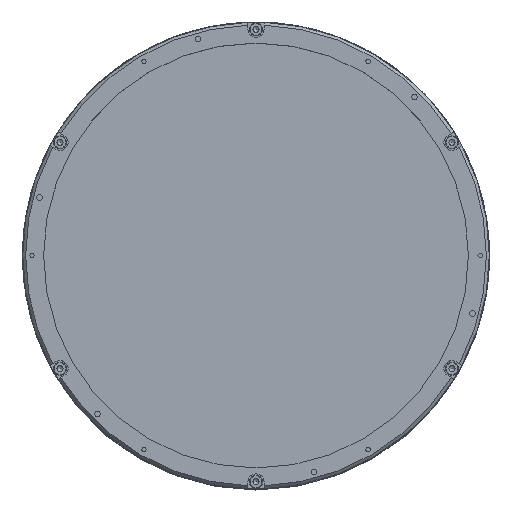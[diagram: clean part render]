
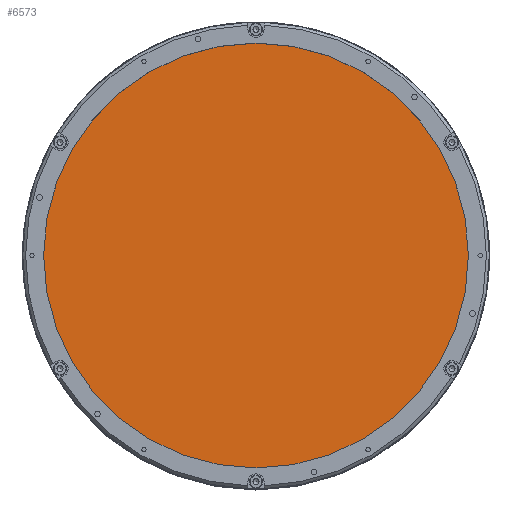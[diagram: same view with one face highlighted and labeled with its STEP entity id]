
A CAD part, top view. The second image highlights one B-rep face of the part: STEP entity #6573.
In plain terms, the highlighted planar face has unit normal (0, 0, 1).
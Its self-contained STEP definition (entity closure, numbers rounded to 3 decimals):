
#1283 = DIRECTION ( 'NONE',  ( 0., 0., 1. ) ) ;
#3029 = DIRECTION ( 'NONE',  ( -1., 0., 0. ) ) ;
#4483 = EDGE_CURVE ( 'NONE', #7227, #7227, #15347, .T. ) ;
#6400 = FACE_OUTER_BOUND ( 'NONE', #9774, .T. ) ;
#6573 = ADVANCED_FACE ( 'NONE', ( #6400 ), #20860, .F. ) ;
#7227 = VERTEX_POINT ( 'NONE', #12076 ) ;
#8257 = CARTESIAN_POINT ( 'NONE',  ( 0., 0., 159.7 ) ) ;
#9774 = EDGE_LOOP ( 'NONE', ( #17893 ) ) ;
#11853 = CARTESIAN_POINT ( 'NONE',  ( 0., 0., 159.7 ) ) ;
#11930 = AXIS2_PLACEMENT_3D ( 'NONE', #8257, #13719, #3029 ) ;
#12076 = CARTESIAN_POINT ( 'NONE',  ( 72.75, 0., 159.7 ) ) ;
#13673 = DIRECTION ( 'NONE',  ( 1., 0., 0. ) ) ;
#13719 = DIRECTION ( 'NONE',  ( 0., 0., -1. ) ) ;
#15347 = CIRCLE ( 'NONE', #17193, 72.75 ) ;
#17193 = AXIS2_PLACEMENT_3D ( 'NONE', #11853, #1283, #13673 ) ;
#17893 = ORIENTED_EDGE ( 'NONE', *, *, #4483, .T. ) ;
#20860 = PLANE ( 'NONE',  #11930 ) ;
